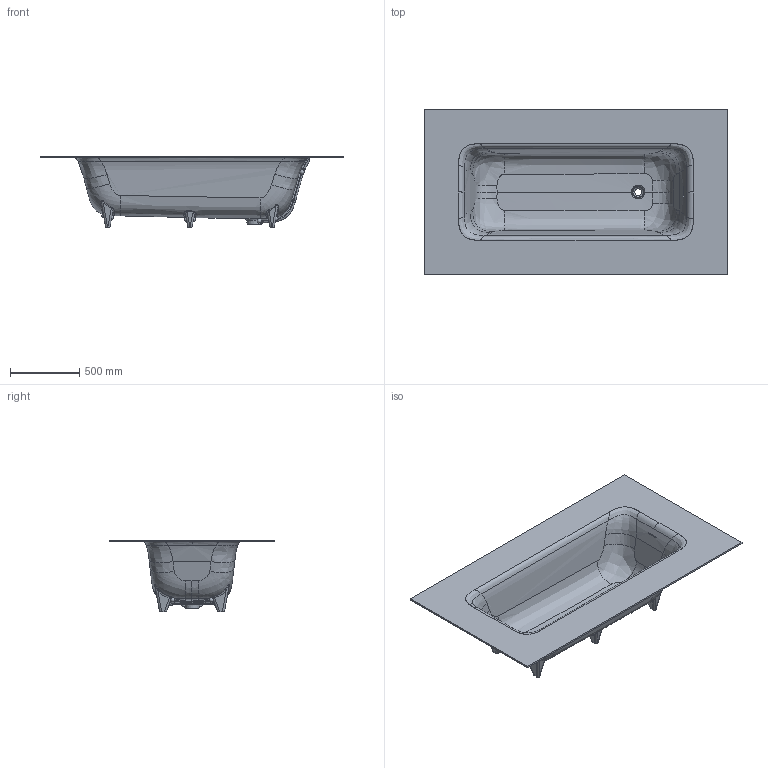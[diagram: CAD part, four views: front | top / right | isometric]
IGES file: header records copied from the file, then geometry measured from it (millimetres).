
Start section: Data from Parasolid IGES Translator 22.0.50, Copyright(c) 2006 Siemens P LM Software. All Rights Reserved.
Global section: file name: noorth-bathtub-H52 D82-120 W181-220_5668.igs; native system: By Siemens PLM Incorporated; preprocessor: XPlus GENERIC/IGES 22.0.50; author: Noname; organization: Noname; date: 20250706.162211; units: metre
Bounding box: 2200 x 1200 x 520.01 mm (x, y, z)
Volume: 57947359.1 mm3; surface area: 8073445.9 mm2
Topology: 2 solids, 2 shells, 489 faces, 1246 edges, 727 vertices
Faces by surface type: bspline 360, plane 65, cylinder 37, sphere 22, cone 4, torus 1
Full cylindrical faces by diameter (mm): 50 x1
